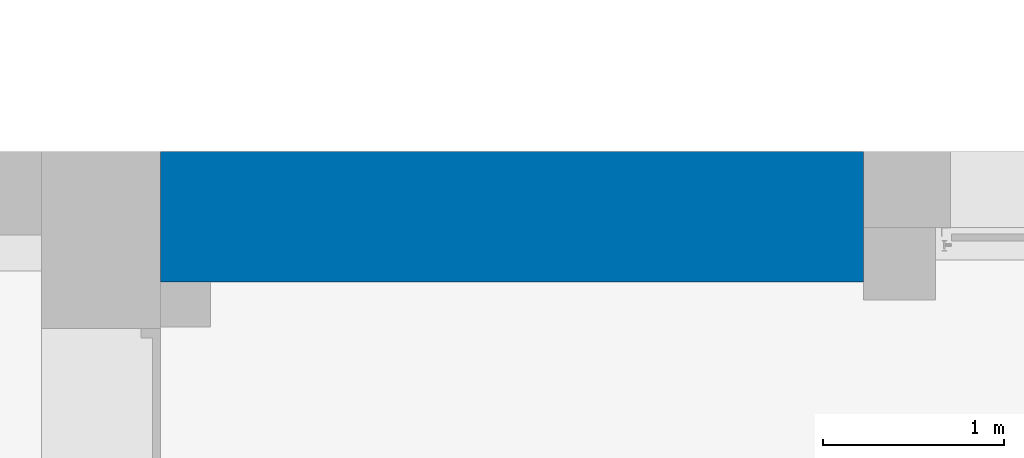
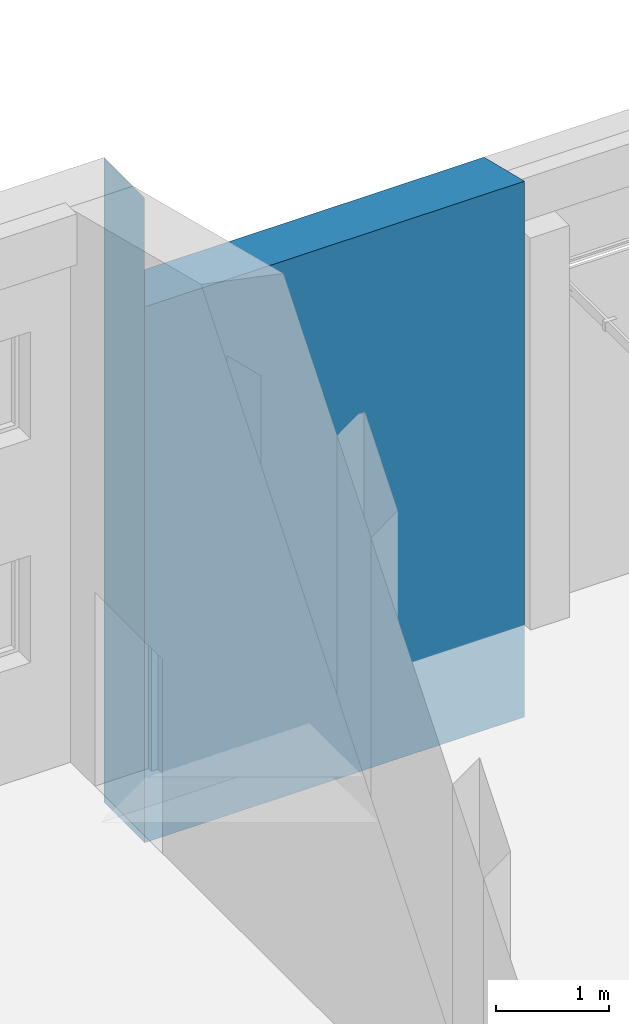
# One storey, part 160 of 301: 1 wall.
"""IFC2X3 building model written with IfcOpenShell, lengths in millimetres."""

from ifc_helpers import new_model, entity, si_unit, converted_unit, derived_unit, money_unit, direction, frame, origin_with_axes, place, context, subcontext, project, spatial, faceted_brep, material, type_object, element, save


model = new_model("IFC2X3")

# Units and contexts
model_context = context("Model", 3, precision=0.01, world=origin_with_axes(), true_north=direction((0.0, 1.0)))
body_context = subcontext(model_context, "Body", "Model", "MODEL_VIEW")
ifc_project = project(units=[si_unit("LENGTHUNIT", "METRE", prefix="MILLI"), si_unit("AREAUNIT", "SQUARE_METRE"), si_unit("VOLUMEUNIT", "CUBIC_METRE"), converted_unit("PLANEANGLEUNIT", "DEGREE", entity("IfcPlaneAngleMeasure", 0.0174532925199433), si_unit("PLANEANGLEUNIT", "RADIAN"), dimensions=[0, 0, 0, 0, 0, 0, 0]), money_unit("EUR"), converted_unit("TIMEUNIT", "Year", entity("IfcTimeMeasure", 31557600.0), si_unit("TIMEUNIT", "SECOND"), dimensions=[0, 0, 1, 0, 0, 0, 0]), si_unit("MASSUNIT", "GRAM", prefix="KILO"), si_unit("THERMODYNAMICTEMPERATUREUNIT", "DEGREE_CELSIUS"), si_unit("LUMINOUSINTENSITYUNIT", "LUMEN"), si_unit("ENERGYUNIT", "JOULE", prefix="MEGA"), derived_unit("THERMALCONDUCTANCEUNIT", [(si_unit("POWERUNIT", "WATT"), 1), (si_unit("LENGTHUNIT", "METRE"), -1), (si_unit("THERMODYNAMICTEMPERATUREUNIT", "KELVIN"), -1)]), derived_unit("SPECIFICHEATCAPACITYUNIT", [(si_unit("ENERGYUNIT", "JOULE"), 1), (si_unit("MASSUNIT", "GRAM", prefix="KILO"), -1), (si_unit("THERMODYNAMICTEMPERATUREUNIT", "KELVIN"), -1)]), derived_unit("MASSDENSITYUNIT", [(si_unit("MASSUNIT", "GRAM", prefix="KILO"), 1), (si_unit("VOLUMEUNIT", "CUBIC_METRE"), -1)])], contexts=[model_context])

# Site, building, storey
site_placement = place(None, frame((0.0, 0.0, 8650.0), z_axis=(0.0, 0.0, 1.0), x_axis=(1.0, 0.0, 0.0)))
site = spatial("IfcSite", under=ifc_project, at=site_placement, Name="43301:001:0844", CompositionType="ELEMENT")
building_placement = place(site_placement, origin_with_axes())
building = spatial("IfcBuilding", under=site, at=building_placement, Name="Kuressaare Ametikooli tuulikute mehaanikute õppekorpus", CompositionType="ELEMENT")
storey_placement = place(building_placement, origin_with_axes())
storey = spatial("IfcBuildingStorey", under=building, at=storey_placement, Name="1.korrus", CompositionType="ELEMENT", Elevation=0.0)

# Wall
ifc_material = material(Name="GENEERILINE - KONSTRUKTRIOON")
wall_type = type_object("IfcWallType", Name="GENEERILINE - KONSTRUKTRIOON 720", PredefinedType="NOTDEFINED")
wall_placement = place(storey_placement, frame((156141.2380981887, 26292.98866271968, -1000.0), z_axis=(0.0, 0.0, 1.0), x_axis=(-1.0, 0.0, 0.0)))
element("IfcWall", 1, at=wall_placement, inside=storey, type_object=wall_type, material=ifc_material, Name="VS-XX", context=body_context, shape_type="Brep", body=[
    faceted_brep([(3887.6177982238, 0.0, 5621.162288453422), (0.0, 0.0, 5621.162288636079), (0.0, 0.0, 0.0), (3887.617797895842, 0.0, 0.0), (0.0, 720.0000000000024, 5797.630025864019), (3887.617798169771, 719.9999999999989, 5797.630025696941), (0.0, 719.9999999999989, 0.0), (3888.41840121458, 719.9999999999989, 0.0), (3887.6177982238, 0.0, 6979.184994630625), (3888.41840121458, 719.9999999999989, 6979.184994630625), (3887.617798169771, 719.9999999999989, 6979.184994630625)], [[[0, 1, 2, 3]], [[4, 1, 0, 5]], [[1, 4, 6, 2]], [[7, 3, 2, 6]], [[8, 0, 3, 7, 9]], [[0, 8, 10, 5]], [[5, 10, 9, 7, 6, 4]], [[10, 8, 9]]]),
])

save(model, "model.ifc")
